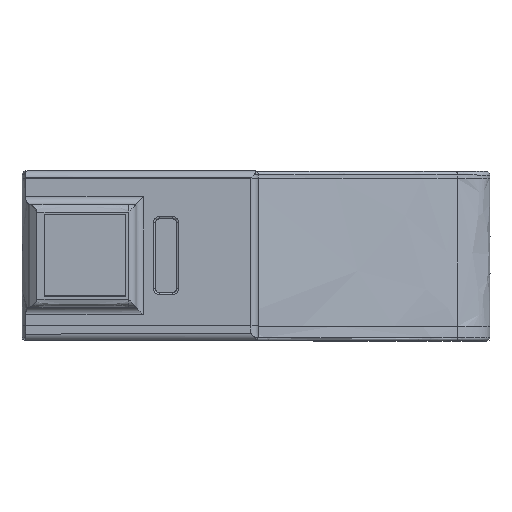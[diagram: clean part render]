
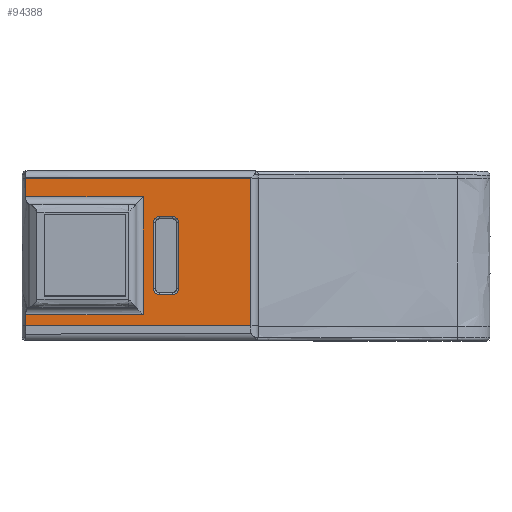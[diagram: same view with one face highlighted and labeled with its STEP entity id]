
A CAD part, top view. The second image highlights one B-rep face of the part: STEP entity #94388.
In plain terms, the highlighted planar face has unit normal (0, 0, 1).
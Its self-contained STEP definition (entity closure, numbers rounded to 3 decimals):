
#2824=B_SPLINE_CURVE_WITH_KNOTS('',3,(#164726,#164727,#164728,#164729),
 .UNSPECIFIED.,.F.,.F.,(4,4),(-0.3,-0.15),.UNSPECIFIED.);
#2825=B_SPLINE_CURVE_WITH_KNOTS('',3,(#164737,#164738,#164739,#164740),
 .UNSPECIFIED.,.F.,.F.,(4,4),(-0.25,0.),.UNSPECIFIED.);
#4335=FACE_BOUND('',#14950,.T.);
#5341=CIRCLE('',#100272,0.8);
#5345=CIRCLE('',#100277,0.8);
#5349=CIRCLE('',#100282,0.8);
#5352=CIRCLE('',#100286,0.8);
#9786=FACE_OUTER_BOUND('',#14949,.T.);
#14949=EDGE_LOOP('',(#83251,#83252,#83253,#83254,#83255,#83256,#83257,#83258));
#14950=EDGE_LOOP('',(#83259,#83260,#83261,#83262,#83263,#83264,#83265,#83266));
#25088=LINE('',#164567,#35532);
#25089=LINE('',#164602,#35533);
#25091=LINE('',#164638,#35535);
#25093=LINE('',#164674,#35537);
#25102=LINE('',#164724,#35546);
#25103=LINE('',#164731,#35547);
#25104=LINE('',#164733,#35548);
#25105=LINE('',#164735,#35549);
#25106=LINE('',#164742,#35550);
#25107=LINE('',#164743,#35551);
#35532=VECTOR('',#120352,10.);
#35533=VECTOR('',#120363,10.);
#35535=VECTOR('',#120375,10.);
#35537=VECTOR('',#120387,10.);
#35546=VECTOR('',#120414,10.);
#35547=VECTOR('',#120415,10.);
#35548=VECTOR('',#120416,10.);
#35549=VECTOR('',#120417,10.);
#35550=VECTOR('',#120418,10.);
#35551=VECTOR('',#120419,10.);
#44441=VERTEX_POINT('',#164560);
#44444=VERTEX_POINT('',#164565);
#44446=VERTEX_POINT('',#164594);
#44448=VERTEX_POINT('',#164600);
#44450=VERTEX_POINT('',#164630);
#44452=VERTEX_POINT('',#164636);
#44454=VERTEX_POINT('',#164666);
#44456=VERTEX_POINT('',#164672);
#44462=VERTEX_POINT('',#164722);
#44463=VERTEX_POINT('',#164723);
#44464=VERTEX_POINT('',#164725);
#44465=VERTEX_POINT('',#164730);
#44466=VERTEX_POINT('',#164732);
#44467=VERTEX_POINT('',#164734);
#44468=VERTEX_POINT('',#164736);
#44469=VERTEX_POINT('',#164741);
#57550=EDGE_CURVE('',#44444,#44441,#25088,.T.);
#57552=EDGE_CURVE('',#44446,#44444,#5341,.T.);
#57555=EDGE_CURVE('',#44448,#44446,#25089,.T.);
#57558=EDGE_CURVE('',#44450,#44448,#5345,.T.);
#57561=EDGE_CURVE('',#44452,#44450,#25091,.T.);
#57564=EDGE_CURVE('',#44454,#44452,#5349,.T.);
#57567=EDGE_CURVE('',#44456,#44454,#25093,.T.);
#57569=EDGE_CURVE('',#44441,#44456,#5352,.T.);
#57580=EDGE_CURVE('',#44462,#44463,#25102,.T.);
#57581=EDGE_CURVE('',#44464,#44462,#2824,.T.);
#57582=EDGE_CURVE('',#44465,#44464,#25103,.T.);
#57583=EDGE_CURVE('',#44466,#44465,#25104,.T.);
#57584=EDGE_CURVE('',#44467,#44466,#25105,.T.);
#57585=EDGE_CURVE('',#44468,#44467,#2825,.T.);
#57586=EDGE_CURVE('',#44469,#44468,#25106,.T.);
#57587=EDGE_CURVE('',#44463,#44469,#25107,.T.);
#83251=ORIENTED_EDGE('',*,*,#57580,.F.);
#83252=ORIENTED_EDGE('',*,*,#57581,.F.);
#83253=ORIENTED_EDGE('',*,*,#57582,.F.);
#83254=ORIENTED_EDGE('',*,*,#57583,.F.);
#83255=ORIENTED_EDGE('',*,*,#57584,.F.);
#83256=ORIENTED_EDGE('',*,*,#57585,.F.);
#83257=ORIENTED_EDGE('',*,*,#57586,.F.);
#83258=ORIENTED_EDGE('',*,*,#57587,.F.);
#83259=ORIENTED_EDGE('',*,*,#57550,.F.);
#83260=ORIENTED_EDGE('',*,*,#57552,.F.);
#83261=ORIENTED_EDGE('',*,*,#57555,.F.);
#83262=ORIENTED_EDGE('',*,*,#57558,.F.);
#83263=ORIENTED_EDGE('',*,*,#57561,.F.);
#83264=ORIENTED_EDGE('',*,*,#57564,.F.);
#83265=ORIENTED_EDGE('',*,*,#57567,.F.);
#83266=ORIENTED_EDGE('',*,*,#57569,.F.);
#89654=PLANE('',#100294);
#94388=ADVANCED_FACE('',(#9786,#4335),#89654,.T.);
#100272=AXIS2_PLACEMENT_3D('',#164596,#120355,#120356);
#100277=AXIS2_PLACEMENT_3D('',#164632,#120367,#120368);
#100282=AXIS2_PLACEMENT_3D('',#164668,#120379,#120380);
#100286=AXIS2_PLACEMENT_3D('',#164701,#120389,#120390);
#100294=AXIS2_PLACEMENT_3D('',#164721,#120412,#120413);
#120352=DIRECTION('',(1.,0.,0.));
#120355=DIRECTION('center_axis',(0.,0.,1.));
#120356=DIRECTION('ref_axis',(-1.,0.,0.));
#120363=DIRECTION('',(0.,-1.,0.));
#120367=DIRECTION('center_axis',(0.,0.,1.));
#120368=DIRECTION('ref_axis',(-1.,0.,0.));
#120375=DIRECTION('',(-1.,0.,0.));
#120379=DIRECTION('center_axis',(0.,0.,1.));
#120380=DIRECTION('ref_axis',(1.,0.,0.));
#120387=DIRECTION('',(0.,1.,0.));
#120389=DIRECTION('center_axis',(0.,0.,1.));
#120390=DIRECTION('ref_axis',(1.,0.,0.));
#120412=DIRECTION('center_axis',(0.,0.,1.));
#120413=DIRECTION('ref_axis',(-1.,0.,0.));
#120414=DIRECTION('',(1.,0.,0.));
#120415=DIRECTION('',(-1.,0.,0.));
#120416=DIRECTION('',(0.,-1.,0.));
#120417=DIRECTION('',(1.,0.,0.));
#120418=DIRECTION('',(-1.,0.,0.));
#120419=DIRECTION('',(0.,1.,0.));
#164560=CARTESIAN_POINT('',(18.4,1.2,2.022));
#164565=CARTESIAN_POINT('',(16.6,1.2,2.022));
#164567=CARTESIAN_POINT('',(22.799,1.2,2.023));
#164594=CARTESIAN_POINT('',(15.8,2.,2.022));
#164596=CARTESIAN_POINT('Origin',(16.6,2.,2.022));
#164600=CARTESIAN_POINT('',(15.8,11.,2.022));
#164602=CARTESIAN_POINT('',(15.8,14.,2.022));
#164630=CARTESIAN_POINT('',(16.6,11.8,2.022));
#164632=CARTESIAN_POINT('Origin',(16.6,11.,2.022));
#164636=CARTESIAN_POINT('',(18.4,11.8,2.022));
#164638=CARTESIAN_POINT('',(23.699,11.8,2.023));
#164666=CARTESIAN_POINT('',(19.2,11.,2.022));
#164668=CARTESIAN_POINT('Origin',(18.4,11.,2.022));
#164672=CARTESIAN_POINT('',(19.2,2.,2.022));
#164674=CARTESIAN_POINT('',(19.2,9.5,2.022));
#164701=CARTESIAN_POINT('Origin',(18.4,2.,2.022));
#164721=CARTESIAN_POINT('Origin',(28.999,17.,2.025));
#164722=CARTESIAN_POINT('',(-1.531,-1.5,2.018));
#164723=CARTESIAN_POINT('',(14.428,-1.5,2.021));
#164724=CARTESIAN_POINT('',(17.724,-1.5,2.022));
#164725=CARTESIAN_POINT('',(-1.531,-3.,2.018));
#164726=CARTESIAN_POINT('Ctrl Pts',(-1.531,-3.,
2.018));
#164727=CARTESIAN_POINT('Ctrl Pts',(-1.531,-2.5,
2.018));
#164728=CARTESIAN_POINT('Ctrl Pts',(-1.531,-2.,
2.018));
#164729=CARTESIAN_POINT('Ctrl Pts',(-1.531,-1.5,
2.018));
#164730=CARTESIAN_POINT('',(28.999,-3.,2.025));
#164731=CARTESIAN_POINT('',(14.428,-3.,2.021));
#164732=CARTESIAN_POINT('',(28.999,17.,2.025));
#164733=CARTESIAN_POINT('',(28.999,17.,2.025));
#164734=CARTESIAN_POINT('',(-1.531,17.,2.018));
#164735=CARTESIAN_POINT('',(14.094,17.,2.021));
#164736=CARTESIAN_POINT('',(-1.531,14.5,2.018));
#164737=CARTESIAN_POINT('Ctrl Pts',(-1.531,14.5,
2.018));
#164738=CARTESIAN_POINT('Ctrl Pts',(-1.531,15.333,
2.018));
#164739=CARTESIAN_POINT('Ctrl Pts',(-1.531,16.167,2.018));
#164740=CARTESIAN_POINT('Ctrl Pts',(-1.531,17.,
2.018));
#164741=CARTESIAN_POINT('',(14.428,14.5,2.021));
#164742=CARTESIAN_POINT('',(17.724,14.5,2.022));
#164743=CARTESIAN_POINT('',(14.428,17.,2.021));
